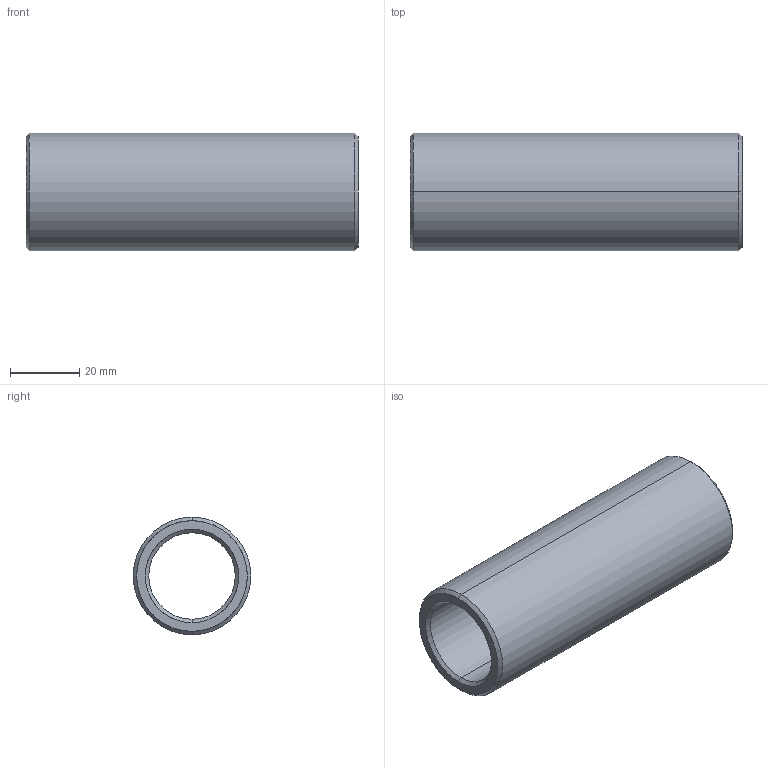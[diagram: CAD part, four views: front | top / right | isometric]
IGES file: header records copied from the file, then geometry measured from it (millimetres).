
Start section: START RECORD GO HERE.
Global section: file name: 352-25X96.igs; native system: DASSAULT SYSTEMES CATIA V5 R20 - www.3ds.com; preprocessor: CATIA Version 5 Release 20 ; author: Utente; organization: NB04-ASUS; date: 20210414.172320; units: millimetre
Bounding box: 96 x 34 x 34 mm (x, y, z)
Surface area: 18422.4 mm2 (no closed solid volume)
Topology: 0 solids, 0 shells, 14 faces, 88 edges, 88 vertices
Faces by surface type: revolution 12, plane 2
